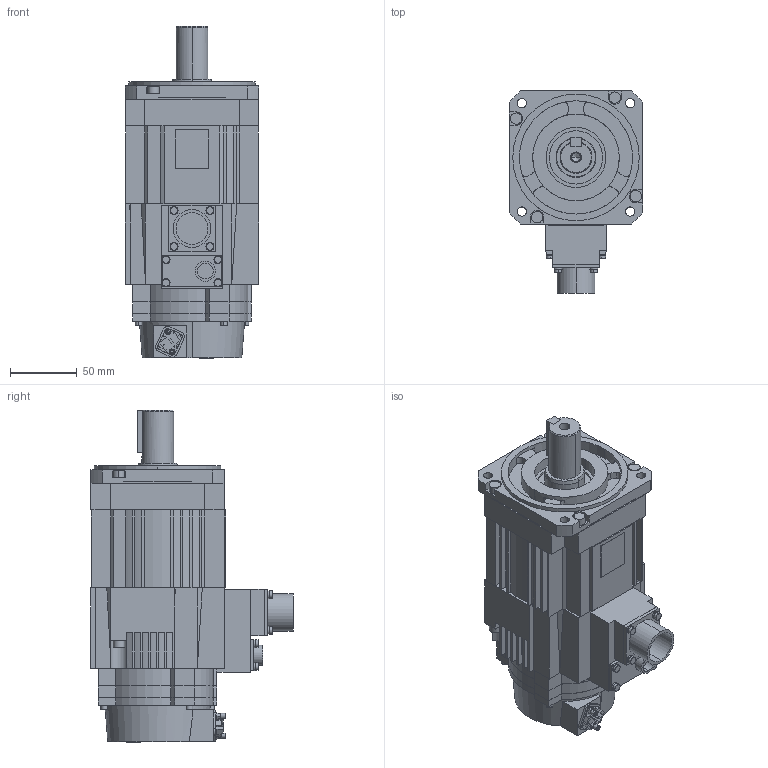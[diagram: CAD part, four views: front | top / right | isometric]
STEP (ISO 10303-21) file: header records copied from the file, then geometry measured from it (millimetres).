
FILE_DESCRIPTION( (''), '2;1');
FILE_NAME ('sgmxa_15awa6ca1.stp','2024-03-07T11:19:47',(''),(''),'spGate 15.6.6','','');
FILE_SCHEMA (('AUTOMOTIVE_DESIGN'));
Length unit declared in the file: millimetre
Products named in the file (3): Assembly; sgmxa_15awa6ca1-prt0; sgmxa_15awa6ca1-prt1
Assembly tree (2 placements, depth 2):
  Assembly
    sgmxa_15awa6ca1-prt0
    sgmxa_15awa6ca1-prt1
Bounding box: 100 x 151.7 x 249.2 mm (x, y, z)
Volume: 1666094.8 mm3; surface area: 142894.8 mm2
Topology: 2 solids, 2 shells, 669 faces, 1792 edges, 1178 vertices
Faces by surface type: plane 468, cylinder 169, bspline 32
Entity records: 35088 total; most frequent: CARTESIAN_POINT 4128, ORIENTED_EDGE 3580, DIRECTION 3347, COLOUR_RGB 2461, PRESENTATION_STYLE_ASSIGNMENT 2461, STYLED_ITEM 2461, EDGE_CURVE 1790, DRAUGHTING_PRE_DEFINED_CURVE_FONT 1790
